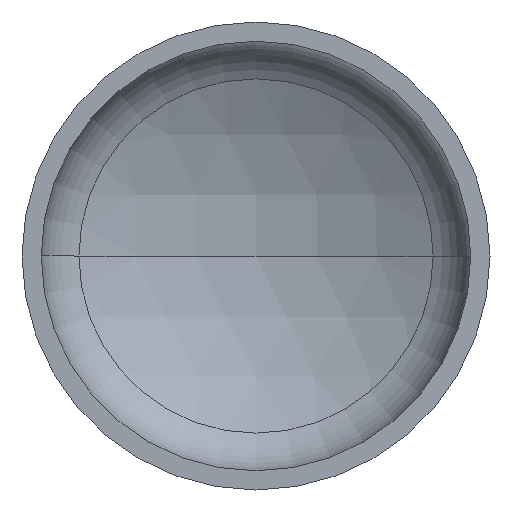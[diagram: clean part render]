
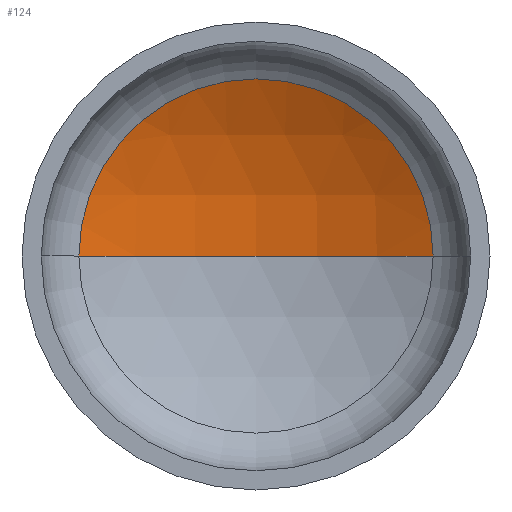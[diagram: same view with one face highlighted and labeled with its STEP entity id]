
A CAD part, front view. The second image highlights one B-rep face of the part: STEP entity #124.
In plain terms, the highlighted spherical face has radius 1520 mm.
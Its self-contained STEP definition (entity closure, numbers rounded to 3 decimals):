
#7 = EDGE_LOOP ( 'NONE', ( #44, #28, #212 ) ) ;
#14 = CARTESIAN_POINT ( 'NONE',  ( 0., -963.594, 0. ) ) ;
#16 = CARTESIAN_POINT ( 'NONE',  ( -719.22, 375.482, 0. ) ) ;
#17 = VERTEX_POINT ( 'NONE', #237 ) ;
#20 = AXIS2_PLACEMENT_3D ( 'NONE', #140, #325, #149 ) ;
#28 = ORIENTED_EDGE ( 'NONE', *, *, #389, .T. ) ;
#44 = ORIENTED_EDGE ( 'NONE', *, *, #387, .F. ) ;
#56 = AXIS2_PLACEMENT_3D ( 'NONE', #284, #290, #198 ) ;
#71 = DIRECTION ( 'NONE',  ( -1., 0., 0. ) ) ;
#124 = ADVANCED_FACE ( 'NONE', ( #406 ), #349, .F. ) ;
#139 = VERTEX_POINT ( 'NONE', #303 ) ;
#140 = CARTESIAN_POINT ( 'NONE',  ( 0., 375.482, 0. ) ) ;
#149 = DIRECTION ( 'NONE',  ( 1., 0., 0. ) ) ;
#151 = CIRCLE ( 'NONE', #223, 1520. ) ;
#162 = CIRCLE ( 'NONE', #20, 719.22 ) ;
#198 = DIRECTION ( 'NONE',  ( -1., 0., 0. ) ) ;
#199 = DIRECTION ( 'NONE',  ( 0., 0., 1. ) ) ;
#212 = ORIENTED_EDGE ( 'NONE', *, *, #356, .T. ) ;
#213 = VERTEX_POINT ( 'NONE', #16 ) ;
#223 = AXIS2_PLACEMENT_3D ( 'NONE', #359, #199, #308 ) ;
#237 = CARTESIAN_POINT ( 'NONE',  ( 719.22, 375.482, 0. ) ) ;
#240 = CIRCLE ( 'NONE', #283, 1520. ) ;
#276 = DIRECTION ( 'NONE',  ( 0., 0., -1. ) ) ;
#283 = AXIS2_PLACEMENT_3D ( 'NONE', #14, #276, #71 ) ;
#284 = CARTESIAN_POINT ( 'NONE',  ( 0., -963.594, 0. ) ) ;
#290 = DIRECTION ( 'NONE',  ( 0., 0., -1. ) ) ;
#303 = CARTESIAN_POINT ( 'NONE',  ( 0., 556.406, 0. ) ) ;
#308 = DIRECTION ( 'NONE',  ( 1., 0., 0. ) ) ;
#325 = DIRECTION ( 'NONE',  ( 0., -1., 0. ) ) ;
#349 = SPHERICAL_SURFACE ( 'NONE', #56, 1520. ) ;
#356 = EDGE_CURVE ( 'NONE', #17, #213, #162, .T. ) ;
#359 = CARTESIAN_POINT ( 'NONE',  ( 0., -963.594, 0. ) ) ;
#387 = EDGE_CURVE ( 'NONE', #139, #213, #151, .T. ) ;
#389 = EDGE_CURVE ( 'NONE', #139, #17, #240, .T. ) ;
#406 = FACE_OUTER_BOUND ( 'NONE', #7, .T. ) ;
